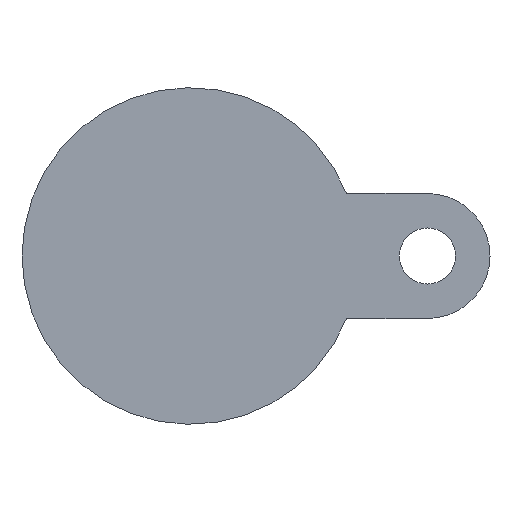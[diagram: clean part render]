
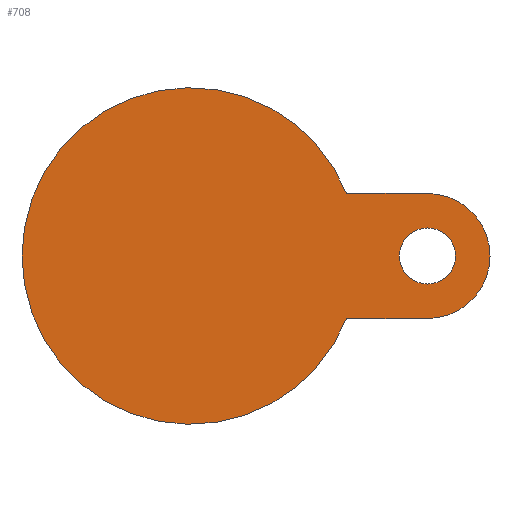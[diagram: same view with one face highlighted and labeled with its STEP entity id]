
A CAD part, front view. The second image highlights one B-rep face of the part: STEP entity #708.
In plain terms, the highlighted planar face has unit normal (0, -1, 0).
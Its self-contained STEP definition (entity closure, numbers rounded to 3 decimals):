
#78 = DIRECTION ( 'NONE',  ( 0., -1., 0. ) ) ;
#150 = VERTEX_POINT ( 'NONE', #1083 ) ;
#191 = ORIENTED_EDGE ( 'NONE', *, *, #3586, .T. ) ;
#210 = DIRECTION ( 'NONE',  ( 1., 0., 0. ) ) ;
#256 = DIRECTION ( 'NONE',  ( 1., 0., 0. ) ) ;
#358 = LINE ( 'NONE', #3798, #1962 ) ;
#389 = DIRECTION ( 'NONE',  ( 1., 0., 0. ) ) ;
#477 = EDGE_CURVE ( 'NONE', #4961, #3506, #619, .T. ) ;
#537 = LINE ( 'NONE', #3043, #2609 ) ;
#619 = CIRCLE ( 'NONE', #2938, 19.5 ) ;
#674 = VERTEX_POINT ( 'NONE', #1988 ) ;
#708 = ADVANCED_FACE ( 'NONE', ( #3423, #4223 ), #929, .T. ) ;
#728 = CARTESIAN_POINT ( 'NONE',  ( 93.5, -25., 0. ) ) ;
#751 = CARTESIAN_POINT ( 'NONE',  ( -52.5, -25., 0. ) ) ;
#819 = DIRECTION ( 'NONE',  ( 1., 0., 0. ) ) ;
#845 = ORIENTED_EDGE ( 'NONE', *, *, #2070, .T. ) ;
#848 = DIRECTION ( 'NONE',  ( 0., 1., 0. ) ) ;
#914 = ORIENTED_EDGE ( 'NONE', *, *, #3097, .F. ) ;
#929 = PLANE ( 'NONE',  #1509 ) ;
#1083 = CARTESIAN_POINT ( 'NONE',  ( 48.744, -25., -19.5 ) ) ;
#1174 = VERTEX_POINT ( 'NONE', #1904 ) ;
#1240 = DIRECTION ( 'NONE',  ( -1., 0., 0. ) ) ;
#1270 = DIRECTION ( 'NONE',  ( -1., 0., 0. ) ) ;
#1301 = CIRCLE ( 'NONE', #2982, 8.75 ) ;
#1337 = EDGE_CURVE ( 'NONE', #150, #2089, #1422, .T. ) ;
#1422 = CIRCLE ( 'NONE', #4430, 52.5 ) ;
#1472 = CIRCLE ( 'NONE', #4562, 8.75 ) ;
#1509 = AXIS2_PLACEMENT_3D ( 'NONE', #4307, #5040, #819 ) ;
#1678 = VERTEX_POINT ( 'NONE', #3110 ) ;
#1680 = CARTESIAN_POINT ( 'NONE',  ( 0., -25., 0. ) ) ;
#1741 = CIRCLE ( 'NONE', #4747, 52.5 ) ;
#1816 = EDGE_LOOP ( 'NONE', ( #3159, #5188, #2656, #845, #2989, #191 ) ) ;
#1904 = CARTESIAN_POINT ( 'NONE',  ( 82.75, -25., 0. ) ) ;
#1931 = CARTESIAN_POINT ( 'NONE',  ( 74., -25., 0. ) ) ;
#1962 = VECTOR ( 'NONE', #2447, 1000. ) ;
#1988 = CARTESIAN_POINT ( 'NONE',  ( 74., -25., 19.5 ) ) ;
#2070 = EDGE_CURVE ( 'NONE', #150, #4961, #358, .T. ) ;
#2089 = VERTEX_POINT ( 'NONE', #751 ) ;
#2192 = ORIENTED_EDGE ( 'NONE', *, *, #3486, .F. ) ;
#2340 = CARTESIAN_POINT ( 'NONE',  ( 74., -25., 0. ) ) ;
#2360 = CIRCLE ( 'NONE', #5459, 19.5 ) ;
#2401 = EDGE_LOOP ( 'NONE', ( #2192, #914 ) ) ;
#2447 = DIRECTION ( 'NONE',  ( 1., 0., 0. ) ) ;
#2609 = VECTOR ( 'NONE', #4756, 1000. ) ;
#2656 = ORIENTED_EDGE ( 'NONE', *, *, #1337, .F. ) ;
#2938 = AXIS2_PLACEMENT_3D ( 'NONE', #1931, #5211, #210 ) ;
#2982 = AXIS2_PLACEMENT_3D ( 'NONE', #2340, #4022, #256 ) ;
#2989 = ORIENTED_EDGE ( 'NONE', *, *, #477, .T. ) ;
#3043 = CARTESIAN_POINT ( 'NONE',  ( 42.597, -25., 19.5 ) ) ;
#3097 = EDGE_CURVE ( 'NONE', #3473, #1174, #1472, .T. ) ;
#3110 = CARTESIAN_POINT ( 'NONE',  ( 48.744, -25., 19.5 ) ) ;
#3159 = ORIENTED_EDGE ( 'NONE', *, *, #5432, .T. ) ;
#3336 = EDGE_CURVE ( 'NONE', #2089, #1678, #1741, .T. ) ;
#3423 = FACE_OUTER_BOUND ( 'NONE', #1816, .T. ) ;
#3473 = VERTEX_POINT ( 'NONE', #3638 ) ;
#3486 = EDGE_CURVE ( 'NONE', #1174, #3473, #1301, .T. ) ;
#3506 = VERTEX_POINT ( 'NONE', #728 ) ;
#3564 = DIRECTION ( 'NONE',  ( 1., 0., 0. ) ) ;
#3586 = EDGE_CURVE ( 'NONE', #3506, #674, #2360, .T. ) ;
#3638 = CARTESIAN_POINT ( 'NONE',  ( 65.25, -25., 0. ) ) ;
#3798 = CARTESIAN_POINT ( 'NONE',  ( 74., -25., -19.5 ) ) ;
#3886 = CARTESIAN_POINT ( 'NONE',  ( 74., -25., -19.5 ) ) ;
#4022 = DIRECTION ( 'NONE',  ( 0., -1., 0. ) ) ;
#4223 = FACE_BOUND ( 'NONE', #2401, .T. ) ;
#4244 = DIRECTION ( 'NONE',  ( 0., -1., 0. ) ) ;
#4307 = CARTESIAN_POINT ( 'NONE',  ( 0., -25., 0. ) ) ;
#4416 = CARTESIAN_POINT ( 'NONE',  ( 74., -25., 0. ) ) ;
#4430 = AXIS2_PLACEMENT_3D ( 'NONE', #4731, #848, #1270 ) ;
#4562 = AXIS2_PLACEMENT_3D ( 'NONE', #4416, #78, #3564 ) ;
#4586 = DIRECTION ( 'NONE',  ( 0., 1., 0. ) ) ;
#4731 = CARTESIAN_POINT ( 'NONE',  ( 0., -25., 0. ) ) ;
#4747 = AXIS2_PLACEMENT_3D ( 'NONE', #1680, #4586, #1240 ) ;
#4756 = DIRECTION ( 'NONE',  ( -1., 0., 0. ) ) ;
#4961 = VERTEX_POINT ( 'NONE', #3886 ) ;
#5040 = DIRECTION ( 'NONE',  ( 0., -1., 0. ) ) ;
#5188 = ORIENTED_EDGE ( 'NONE', *, *, #3336, .F. ) ;
#5211 = DIRECTION ( 'NONE',  ( 0., -1., 0. ) ) ;
#5388 = CARTESIAN_POINT ( 'NONE',  ( 74., -25., 0. ) ) ;
#5432 = EDGE_CURVE ( 'NONE', #674, #1678, #537, .T. ) ;
#5459 = AXIS2_PLACEMENT_3D ( 'NONE', #5388, #4244, #389 ) ;
